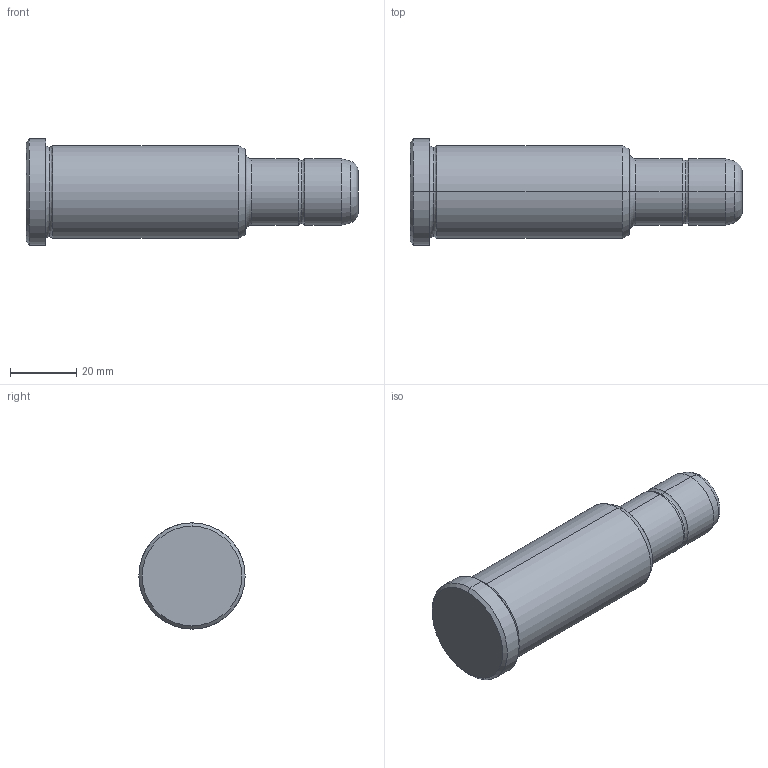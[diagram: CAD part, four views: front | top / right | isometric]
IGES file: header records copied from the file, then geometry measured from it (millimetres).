
Start section: START RECORD GO HERE.
Global section: file name: 351-20X66X100.igs; native system: DASSAULT SYSTEMES CATIA V5 R20 - www.3ds.com; preprocessor: CATIA Version 5 Release 20 ; author: Utente; organization: NB04-ASUS; date: 20210827.151749; units: millimetre
Bounding box: 100 x 32 x 32 mm (x, y, z)
Surface area: 9344.7 mm2 (no closed solid volume)
Topology: 0 solids, 0 shells, 30 faces, 172 edges, 172 vertices
Faces by surface type: revolution 26, plane 4
